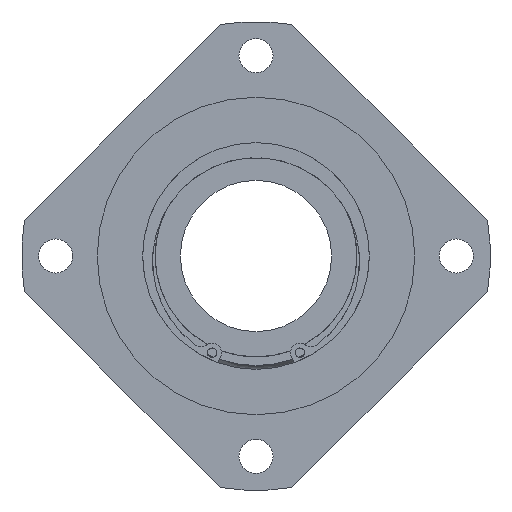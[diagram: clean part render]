
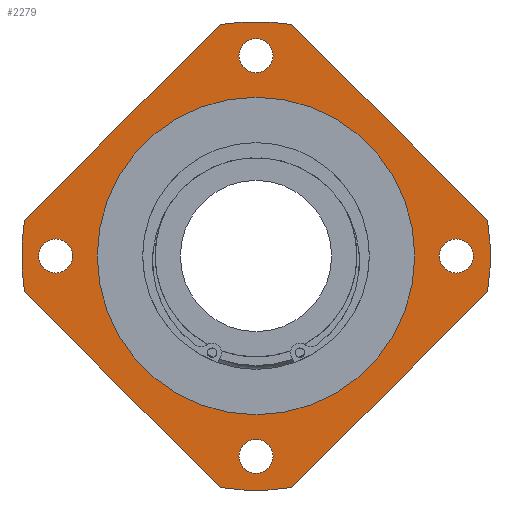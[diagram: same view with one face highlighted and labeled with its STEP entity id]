
A CAD part, left-side view. The second image highlights one B-rep face of the part: STEP entity #2279.
In plain terms, the highlighted planar face has unit normal (-1, 0, 0).
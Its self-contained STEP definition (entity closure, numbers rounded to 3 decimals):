
#1862=CARTESIAN_POINT('',(14.,53.,-4.5));
#1863=VERTEX_POINT('',#1862);
#1864=CARTESIAN_POINT('',(14.,53.,0.));
#1865=DIRECTION('',(1.0,0.0,0.0));
#1866=DIRECTION('',(0.0,0.0,-1.0));
#1867=AXIS2_PLACEMENT_3D('',#1864,#1865,#1866);
#1868=CIRCLE('',#1867,4.5);
#1869=EDGE_CURVE('',#1863,#1863,#1868,.T.);
#1890=CARTESIAN_POINT('',(14.,-4.5,-53.));
#1891=VERTEX_POINT('',#1890);
#1892=CARTESIAN_POINT('',(14.,0.,-53.));
#1893=DIRECTION('',(1.0,0.0,0.0));
#1894=DIRECTION('',(0.0,-1.0,0.0));
#1895=AXIS2_PLACEMENT_3D('',#1892,#1893,#1894);
#1896=CIRCLE('',#1895,4.5);
#1897=EDGE_CURVE('',#1891,#1891,#1896,.T.);
#1918=CARTESIAN_POINT('',(14.,-53.,4.5));
#1919=VERTEX_POINT('',#1918);
#1920=CARTESIAN_POINT('',(14.,-53.,0.));
#1921=DIRECTION('',(1.0,0.0,0.0));
#1922=DIRECTION('',(0.0,0.0,1.0));
#1923=AXIS2_PLACEMENT_3D('',#1920,#1921,#1922);
#1924=CIRCLE('',#1923,4.5);
#1925=EDGE_CURVE('',#1919,#1919,#1924,.T.);
#1946=CARTESIAN_POINT('',(14.,4.5,53.));
#1947=VERTEX_POINT('',#1946);
#1948=CARTESIAN_POINT('',(14.,0.,53.));
#1949=DIRECTION('',(1.0,0.0,0.0));
#1950=DIRECTION('',(0.0,1.0,0.0));
#1951=AXIS2_PLACEMENT_3D('',#1948,#1949,#1950);
#1952=CIRCLE('',#1951,4.5);
#1953=EDGE_CURVE('',#1947,#1947,#1952,.T.);
#1973=CARTESIAN_POINT('',(14.,-9.432,61.278));
#1974=VERTEX_POINT('',#1973);
#1981=CARTESIAN_POINT('',(14.,-61.278,9.432));
#1982=VERTEX_POINT('',#1981);
#1983=CARTESIAN_POINT('',(14.,-61.278,9.432));
#1984=DIRECTION('',(0.0,0.707,0.707));
#1985=VECTOR('',#1984,73.321);
#1986=LINE('',#1983,#1985);
#1987=EDGE_CURVE('',#1982,#1974,#1986,.T.);
#2013=CARTESIAN_POINT('',(14.,9.432,-61.278));
#2014=VERTEX_POINT('',#2013);
#2021=CARTESIAN_POINT('',(14.,61.278,-9.432));
#2022=VERTEX_POINT('',#2021);
#2023=CARTESIAN_POINT('',(14.,61.278,-9.432));
#2024=DIRECTION('',(0.0,-0.707,-0.707));
#2025=VECTOR('',#2024,73.321);
#2026=LINE('',#2023,#2025);
#2027=EDGE_CURVE('',#2022,#2014,#2026,.T.);
#2053=CARTESIAN_POINT('',(14.,-61.278,-9.432));
#2054=VERTEX_POINT('',#2053);
#2061=CARTESIAN_POINT('',(14.,-9.432,-61.278));
#2062=VERTEX_POINT('',#2061);
#2063=CARTESIAN_POINT('',(14.,-9.432,-61.278));
#2064=DIRECTION('',(0.0,-0.707,0.707));
#2065=VECTOR('',#2064,73.321);
#2066=LINE('',#2063,#2065);
#2067=EDGE_CURVE('',#2062,#2054,#2066,.T.);
#2093=CARTESIAN_POINT('',(14.,61.278,9.432));
#2094=VERTEX_POINT('',#2093);
#2101=CARTESIAN_POINT('',(14.,9.432,61.278));
#2102=VERTEX_POINT('',#2101);
#2103=CARTESIAN_POINT('',(14.,9.432,61.278));
#2104=DIRECTION('',(0.0,0.707,-0.707));
#2105=VECTOR('',#2104,73.321);
#2106=LINE('',#2103,#2105);
#2107=EDGE_CURVE('',#2102,#2094,#2106,.T.);
#2187=CARTESIAN_POINT('',(14.,0.0,0.0));
#2188=DIRECTION('',(-1.0,0.0,0.0));
#2189=DIRECTION('',(0.0,0.0,1.0));
#2190=AXIS2_PLACEMENT_3D('',#2187,#2188,#2189);
#2191=CIRCLE('',#2190,62.0);
#2192=EDGE_CURVE('',#2094,#2022,#2191,.T.);
#2207=CARTESIAN_POINT('',(14.,0.0,0.0));
#2208=DIRECTION('',(-1.0,0.0,0.0));
#2209=DIRECTION('',(0.0,0.0,1.0));
#2210=AXIS2_PLACEMENT_3D('',#2207,#2208,#2209);
#2211=CIRCLE('',#2210,62.0);
#2212=EDGE_CURVE('',#2014,#2062,#2211,.T.);
#2223=CARTESIAN_POINT('',(14.,0.0,0.0));
#2224=DIRECTION('',(-1.0,0.0,0.0));
#2225=DIRECTION('',(0.0,0.0,1.0));
#2226=AXIS2_PLACEMENT_3D('',#2223,#2224,#2225);
#2227=CIRCLE('',#2226,62.0);
#2228=EDGE_CURVE('',#2054,#1982,#2227,.T.);
#2235=CARTESIAN_POINT('',(14.,0.0,52.0));
#2236=DIRECTION('',(-1.0,0.0,0.0));
#2237=DIRECTION('',(0.0,0.0,1.0));
#2238=AXIS2_PLACEMENT_3D('',#2235,#2236,#2237);
#2239=PLANE('',#2238);
#2240=ORIENTED_EDGE('',*,*,#1987,.T.);
#2241=CARTESIAN_POINT('',(14.,0.0,0.0));
#2242=DIRECTION('',(-1.0,0.0,0.0));
#2243=DIRECTION('',(0.0,0.0,1.0));
#2244=AXIS2_PLACEMENT_3D('',#2241,#2242,#2243);
#2245=CIRCLE('',#2244,62.0);
#2246=EDGE_CURVE('',#1974,#2102,#2245,.T.);
#2247=ORIENTED_EDGE('',*,*,#2246,.T.);
#2248=ORIENTED_EDGE('',*,*,#2107,.T.);
#2249=ORIENTED_EDGE('',*,*,#2192,.T.);
#2250=ORIENTED_EDGE('',*,*,#2027,.T.);
#2251=ORIENTED_EDGE('',*,*,#2212,.T.);
#2252=ORIENTED_EDGE('',*,*,#2067,.T.);
#2253=ORIENTED_EDGE('',*,*,#2228,.T.);
#2254=EDGE_LOOP('',(#2240,#2247,#2248,#2249,#2250,#2251,#2252,#2253));
#2255=FACE_OUTER_BOUND('',#2254,.T.);
#2256=ORIENTED_EDGE('',*,*,#1869,.T.);
#2257=EDGE_LOOP('',(#2256));
#2258=FACE_BOUND('',#2257,.T.);
#2259=ORIENTED_EDGE('',*,*,#1897,.T.);
#2260=EDGE_LOOP('',(#2259));
#2261=FACE_BOUND('',#2260,.T.);
#2262=ORIENTED_EDGE('',*,*,#1925,.T.);
#2263=EDGE_LOOP('',(#2262));
#2264=FACE_BOUND('',#2263,.T.);
#2265=ORIENTED_EDGE('',*,*,#1953,.T.);
#2266=EDGE_LOOP('',(#2265));
#2267=FACE_BOUND('',#2266,.T.);
#2268=CARTESIAN_POINT('',(14.,0.0,42.0));
#2269=VERTEX_POINT('',#2268);
#2270=CARTESIAN_POINT('',(14.,0.0,0.0));
#2271=DIRECTION('',(-1.0,0.0,0.0));
#2272=DIRECTION('',(0.0,0.0,1.0));
#2273=AXIS2_PLACEMENT_3D('',#2270,#2271,#2272);
#2274=CIRCLE('',#2273,42.0);
#2275=EDGE_CURVE('',#2269,#2269,#2274,.T.);
#2276=ORIENTED_EDGE('',*,*,#2275,.F.);
#2277=EDGE_LOOP('',(#2276));
#2278=FACE_BOUND('',#2277,.T.);
#2279=ADVANCED_FACE('',(#2255,#2258,#2261,#2264,#2267,#2278),#2239,.T.);
